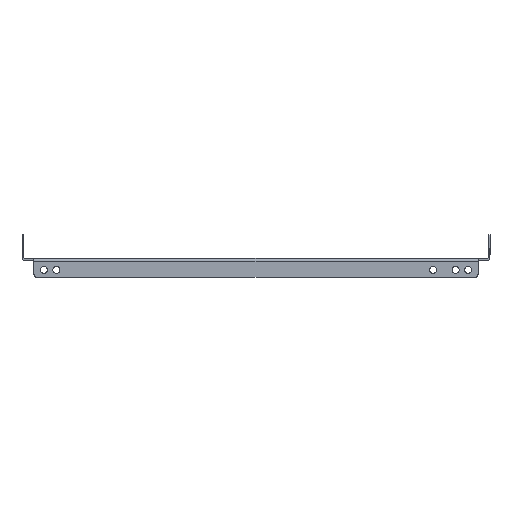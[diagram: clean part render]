
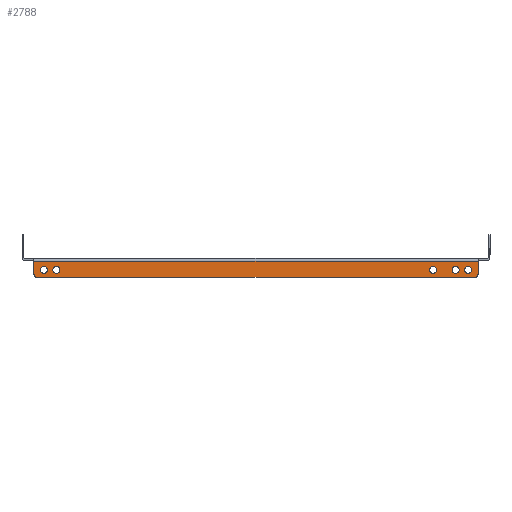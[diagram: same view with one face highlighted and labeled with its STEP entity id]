
A CAD part, left-side view. The second image highlights one B-rep face of the part: STEP entity #2788.
In plain terms, the highlighted planar face has unit normal (-1, 0, 0).
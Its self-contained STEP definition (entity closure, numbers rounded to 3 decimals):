
#13 = EDGE_LOOP ( 'NONE', ( #3499, #1095 ) ) ;
#36 = ORIENTED_EDGE ( 'NONE', *, *, #1336, .F. ) ;
#47 = CARTESIAN_POINT ( 'NONE',  ( -100., 200., -9.5 ) ) ;
#61 = LINE ( 'NONE', #1851, #1891 ) ;
#88 = DIRECTION ( 'NONE',  ( -1., 0., 0. ) ) ;
#104 = CIRCLE ( 'NONE', #1772, 3.5 ) ;
#118 = VERTEX_POINT ( 'NONE', #1934 ) ;
#184 = CARTESIAN_POINT ( 'NONE',  ( -100., -222.5, -0.6 ) ) ;
#200 = CARTESIAN_POINT ( 'NONE',  ( -100., 222.5, -0.6 ) ) ;
#221 = AXIS2_PLACEMENT_3D ( 'NONE', #3194, #88, #450 ) ;
#227 = CIRCLE ( 'NONE', #3403, 3.5 ) ;
#325 = DIRECTION ( 'NONE',  ( -1., 0., 0. ) ) ;
#349 = ORIENTED_EDGE ( 'NONE', *, *, #3729, .F. ) ;
#352 = AXIS2_PLACEMENT_3D ( 'NONE', #2944, #4316, #1708 ) ;
#359 = ORIENTED_EDGE ( 'NONE', *, *, #803, .F. ) ;
#365 = ORIENTED_EDGE ( 'NONE', *, *, #4275, .T. ) ;
#387 = DIRECTION ( 'NONE',  ( 0., 0., -1. ) ) ;
#396 = VERTEX_POINT ( 'NONE', #3884 ) ;
#397 = CARTESIAN_POINT ( 'NONE',  ( -100., 200., -9.5 ) ) ;
#427 = CARTESIAN_POINT ( 'NONE',  ( -100., -177.5, -6. ) ) ;
#450 = DIRECTION ( 'NONE',  ( 0., 0., -1. ) ) ;
#489 = EDGE_CURVE ( 'NONE', #1267, #3080, #2747, .T. ) ;
#514 = VERTEX_POINT ( 'NONE', #427 ) ;
#530 = CIRCLE ( 'NONE', #3060, 3.5 ) ;
#542 = EDGE_CURVE ( 'NONE', #4289, #118, #2680, .T. ) ;
#548 = LINE ( 'NONE', #1306, #3977 ) ;
#558 = CARTESIAN_POINT ( 'NONE',  ( -100., -177.5, -13. ) ) ;
#591 = CIRCLE ( 'NONE', #1163, 3.5 ) ;
#604 = AXIS2_PLACEMENT_3D ( 'NONE', #2554, #3508, #3549 ) ;
#610 = CARTESIAN_POINT ( 'NONE',  ( -100., 200., -6. ) ) ;
#616 = FACE_OUTER_BOUND ( 'NONE', #2776, .T. ) ;
#624 = CARTESIAN_POINT ( 'NONE',  ( -100., -200., -9.5 ) ) ;
#633 = FACE_BOUND ( 'NONE', #1400, .T. ) ;
#683 = VERTEX_POINT ( 'NONE', #200 ) ;
#691 = DIRECTION ( 'NONE',  ( 0., 0., -1. ) ) ;
#755 = CARTESIAN_POINT ( 'NONE',  ( -100., -200., -6. ) ) ;
#756 = DIRECTION ( 'NONE',  ( 0., 1., 0. ) ) ;
#771 = ORIENTED_EDGE ( 'NONE', *, *, #1589, .F. ) ;
#803 = EDGE_CURVE ( 'NONE', #118, #4289, #3047, .T. ) ;
#856 = EDGE_CURVE ( 'NONE', #3947, #683, #61, .T. ) ;
#887 = CIRCLE ( 'NONE', #604, 3.5 ) ;
#895 = ORIENTED_EDGE ( 'NONE', *, *, #2341, .T. ) ;
#949 = FACE_BOUND ( 'NONE', #1727, .T. ) ;
#955 = AXIS2_PLACEMENT_3D ( 'NONE', #4056, #325, #4468 ) ;
#1040 = EDGE_CURVE ( 'NONE', #3227, #3913, #3411, .T. ) ;
#1058 = CARTESIAN_POINT ( 'NONE',  ( -100., 222.5, -14. ) ) ;
#1071 = DIRECTION ( 'NONE',  ( -1., 0., 0. ) ) ;
#1095 = ORIENTED_EDGE ( 'NONE', *, *, #489, .F. ) ;
#1096 = DIRECTION ( 'NONE',  ( -1., 0., 0. ) ) ;
#1163 = AXIS2_PLACEMENT_3D ( 'NONE', #2854, #3595, #3551 ) ;
#1244 = CARTESIAN_POINT ( 'NONE',  ( -100., -219.5, -17. ) ) ;
#1267 = VERTEX_POINT ( 'NONE', #3452 ) ;
#1306 = CARTESIAN_POINT ( 'NONE',  ( -100., 222.5, 0. ) ) ;
#1336 = EDGE_CURVE ( 'NONE', #1808, #2750, #3842, .T. ) ;
#1358 = AXIS2_PLACEMENT_3D ( 'NONE', #397, #1096, #2526 ) ;
#1368 = DIRECTION ( 'NONE',  ( -1., 0., 0. ) ) ;
#1400 = EDGE_LOOP ( 'NONE', ( #3937, #359 ) ) ;
#1485 = EDGE_CURVE ( 'NONE', #3227, #683, #548, .T. ) ;
#1546 = DIRECTION ( 'NONE',  ( 0., 1., 0. ) ) ;
#1554 = VERTEX_POINT ( 'NONE', #1672 ) ;
#1555 = EDGE_CURVE ( 'NONE', #2208, #514, #227, .T. ) ;
#1589 = EDGE_CURVE ( 'NONE', #3947, #2521, #1695, .T. ) ;
#1623 = CARTESIAN_POINT ( 'NONE',  ( -100., 219.5, -14. ) ) ;
#1634 = ORIENTED_EDGE ( 'NONE', *, *, #2673, .F. ) ;
#1643 = ORIENTED_EDGE ( 'NONE', *, *, #2924, .F. ) ;
#1650 = CIRCLE ( 'NONE', #1358, 3.5 ) ;
#1672 = CARTESIAN_POINT ( 'NONE',  ( -100., 212.5, -13. ) ) ;
#1695 = LINE ( 'NONE', #3059, #2759 ) ;
#1697 = CARTESIAN_POINT ( 'NONE',  ( -100., 212.5, -9.5 ) ) ;
#1708 = DIRECTION ( 'NONE',  ( 0., 0., 1. ) ) ;
#1727 = EDGE_LOOP ( 'NONE', ( #349, #1643 ) ) ;
#1753 = DIRECTION ( 'NONE',  ( 0., 0., -1. ) ) ;
#1772 = AXIS2_PLACEMENT_3D ( 'NONE', #1697, #3357, #3062 ) ;
#1808 = VERTEX_POINT ( 'NONE', #2882 ) ;
#1851 = CARTESIAN_POINT ( 'NONE',  ( -100., 222.5, -0.6 ) ) ;
#1854 = ORIENTED_EDGE ( 'NONE', *, *, #1485, .F. ) ;
#1891 = VECTOR ( 'NONE', #756, 1000. ) ;
#1899 = AXIS2_PLACEMENT_3D ( 'NONE', #3890, #1071, #1753 ) ;
#1934 = CARTESIAN_POINT ( 'NONE',  ( -100., -200., -13. ) ) ;
#2046 = VECTOR ( 'NONE', #1546, 1000. ) ;
#2123 = EDGE_CURVE ( 'NONE', #2750, #1808, #591, .T. ) ;
#2133 = DIRECTION ( 'NONE',  ( 0., 0., 1. ) ) ;
#2150 = ORIENTED_EDGE ( 'NONE', *, *, #1040, .T. ) ;
#2208 = VERTEX_POINT ( 'NONE', #558 ) ;
#2224 = EDGE_LOOP ( 'NONE', ( #2916, #36 ) ) ;
#2238 = DIRECTION ( 'NONE',  ( -1., 0., 0. ) ) ;
#2246 = AXIS2_PLACEMENT_3D ( 'NONE', #47, #4273, #2133 ) ;
#2341 = EDGE_CURVE ( 'NONE', #4015, #2521, #4327, .T. ) ;
#2379 = PLANE ( 'NONE',  #955 ) ;
#2506 = EDGE_CURVE ( 'NONE', #3080, #1267, #1650, .T. ) ;
#2521 = VERTEX_POINT ( 'NONE', #3900 ) ;
#2526 = DIRECTION ( 'NONE',  ( 0., 0., 1. ) ) ;
#2554 = CARTESIAN_POINT ( 'NONE',  ( -100., -177.5, -9.5 ) ) ;
#2573 = LINE ( 'NONE', #3969, #2046 ) ;
#2673 = EDGE_CURVE ( 'NONE', #4015, #3913, #2573, .T. ) ;
#2680 = CIRCLE ( 'NONE', #221, 3.5 ) ;
#2724 = CARTESIAN_POINT ( 'NONE',  ( -100., -212.5, -6. ) ) ;
#2742 = CARTESIAN_POINT ( 'NONE',  ( -100., -177.5, -9.5 ) ) ;
#2747 = CIRCLE ( 'NONE', #2246, 3.5 ) ;
#2750 = VERTEX_POINT ( 'NONE', #2724 ) ;
#2759 = VECTOR ( 'NONE', #387, 1000. ) ;
#2776 = EDGE_LOOP ( 'NONE', ( #1634, #895, #771, #2892, #1854, #2150 ) ) ;
#2788 = ADVANCED_FACE ( 'NONE', ( #3379, #3760, #633, #3427, #949, #616 ), #2379, .T. ) ;
#2854 = CARTESIAN_POINT ( 'NONE',  ( -100., -212.5, -9.5 ) ) ;
#2882 = CARTESIAN_POINT ( 'NONE',  ( -100., -212.5, -13. ) ) ;
#2892 = ORIENTED_EDGE ( 'NONE', *, *, #856, .T. ) ;
#2916 = ORIENTED_EDGE ( 'NONE', *, *, #2123, .F. ) ;
#2924 = EDGE_CURVE ( 'NONE', #1554, #396, #530, .T. ) ;
#2944 = CARTESIAN_POINT ( 'NONE',  ( -100., -219.5, -14. ) ) ;
#3047 = CIRCLE ( 'NONE', #3481, 3.5 ) ;
#3059 = CARTESIAN_POINT ( 'NONE',  ( -100., -222.5, -17. ) ) ;
#3060 = AXIS2_PLACEMENT_3D ( 'NONE', #4024, #3645, #3267 ) ;
#3062 = DIRECTION ( 'NONE',  ( 0., 0., 1. ) ) ;
#3080 = VERTEX_POINT ( 'NONE', #610 ) ;
#3194 = CARTESIAN_POINT ( 'NONE',  ( -100., -200., -9.5 ) ) ;
#3209 = ORIENTED_EDGE ( 'NONE', *, *, #1555, .T. ) ;
#3227 = VERTEX_POINT ( 'NONE', #1058 ) ;
#3267 = DIRECTION ( 'NONE',  ( 0., 0., 1. ) ) ;
#3324 = DIRECTION ( 'NONE',  ( 0., 0., 1. ) ) ;
#3357 = DIRECTION ( 'NONE',  ( -1., 0., 0. ) ) ;
#3379 = FACE_BOUND ( 'NONE', #3759, .T. ) ;
#3394 = DIRECTION ( 'NONE',  ( 1., 0., 0. ) ) ;
#3403 = AXIS2_PLACEMENT_3D ( 'NONE', #2742, #3394, #3444 ) ;
#3411 = CIRCLE ( 'NONE', #4419, 3. ) ;
#3427 = FACE_BOUND ( 'NONE', #13, .T. ) ;
#3444 = DIRECTION ( 'NONE',  ( 0., 0., -1. ) ) ;
#3452 = CARTESIAN_POINT ( 'NONE',  ( -100., 200., -13. ) ) ;
#3481 = AXIS2_PLACEMENT_3D ( 'NONE', #624, #1368, #691 ) ;
#3499 = ORIENTED_EDGE ( 'NONE', *, *, #2506, .F. ) ;
#3508 = DIRECTION ( 'NONE',  ( 1., 0., 0. ) ) ;
#3549 = DIRECTION ( 'NONE',  ( 0., 0., -1. ) ) ;
#3551 = DIRECTION ( 'NONE',  ( 0., 0., -1. ) ) ;
#3595 = DIRECTION ( 'NONE',  ( -1., 0., 0. ) ) ;
#3645 = DIRECTION ( 'NONE',  ( -1., 0., 0. ) ) ;
#3710 = DIRECTION ( 'NONE',  ( 0., 0., 1. ) ) ;
#3729 = EDGE_CURVE ( 'NONE', #396, #1554, #104, .T. ) ;
#3759 = EDGE_LOOP ( 'NONE', ( #3209, #365 ) ) ;
#3760 = FACE_BOUND ( 'NONE', #2224, .T. ) ;
#3822 = CARTESIAN_POINT ( 'NONE',  ( -100., 219.5, -17. ) ) ;
#3842 = CIRCLE ( 'NONE', #1899, 3.5 ) ;
#3884 = CARTESIAN_POINT ( 'NONE',  ( -100., 212.5, -6. ) ) ;
#3890 = CARTESIAN_POINT ( 'NONE',  ( -100., -212.5, -9.5 ) ) ;
#3900 = CARTESIAN_POINT ( 'NONE',  ( -100., -222.5, -14. ) ) ;
#3913 = VERTEX_POINT ( 'NONE', #3822 ) ;
#3937 = ORIENTED_EDGE ( 'NONE', *, *, #542, .F. ) ;
#3947 = VERTEX_POINT ( 'NONE', #184 ) ;
#3969 = CARTESIAN_POINT ( 'NONE',  ( -100., 222.5, -17. ) ) ;
#3977 = VECTOR ( 'NONE', #3710, 1000. ) ;
#4015 = VERTEX_POINT ( 'NONE', #1244 ) ;
#4024 = CARTESIAN_POINT ( 'NONE',  ( -100., 212.5, -9.5 ) ) ;
#4056 = CARTESIAN_POINT ( 'NONE',  ( -100., 222.5, 0. ) ) ;
#4273 = DIRECTION ( 'NONE',  ( -1., 0., 0. ) ) ;
#4275 = EDGE_CURVE ( 'NONE', #514, #2208, #887, .T. ) ;
#4289 = VERTEX_POINT ( 'NONE', #755 ) ;
#4316 = DIRECTION ( 'NONE',  ( -1., 0., 0. ) ) ;
#4327 = CIRCLE ( 'NONE', #352, 3. ) ;
#4419 = AXIS2_PLACEMENT_3D ( 'NONE', #1623, #2238, #3324 ) ;
#4468 = DIRECTION ( 'NONE',  ( 0., 0., 1. ) ) ;
